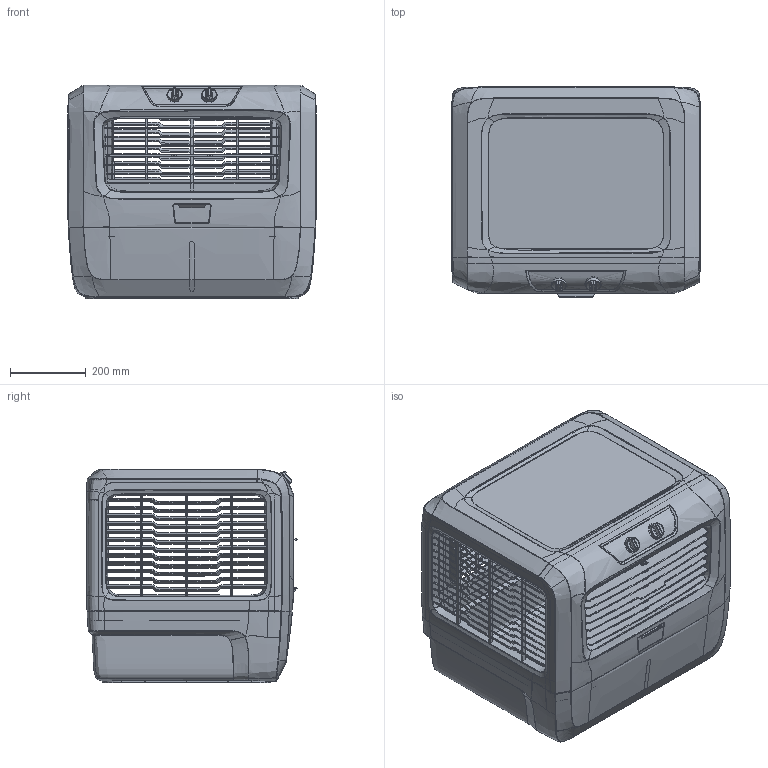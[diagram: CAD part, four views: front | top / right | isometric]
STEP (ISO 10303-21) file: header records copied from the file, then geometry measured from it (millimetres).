
FILE_DESCRIPTION(/* description */ (''),/* implementation_level */ '2;1');
FILE_NAME(/* name */ 'C:/Users/vivek/Downloads/MD2020_PART_ASSEMBLY/selected concept 1 mockup v27.step',/* time_stamp */ '2022-01-18T14:07:08+06:00',/* author */ (''),/* organization */ (''),/* preprocessor_version */ 'ST-DEVELOPER v18.1',/* originating_system */ 'Autodesk Translation Framework v10.10.0.1391',/* authorisation */ '');
FILE_SCHEMA (('AUTOMOTIVE_DESIGN { 1 0 10303 214 3 1 1 }'));
Products named in the file (2): selected concept 1 mockup; wc final
Assembly tree (1 placements, depth 2):
  selected concept 1 mockup
    wc final
Bounding box: 655 x 555.49 x 565 mm (x, y, z)
Volume: 4963698.4 mm3; surface area: 4148741.5 mm2
Topology: 20 solids, 20 shells, 1808 faces, 5559 edges, 3644 vertices
Faces by surface type: bspline 1049, plane 516, cylinder 204, torus 33, sphere 6
Full cylindrical faces by diameter (mm): 3 x37, 3.2 x14, 3.5 x12, 37.6 x3, 40 x3, 42.2 x1, 44.6 x1
Entity records: 179873 total; most frequent: CARTESIAN_POINT 138787, ORIENTED_EDGE 11122, EDGE_CURVE 5561, DIRECTION 4547, VERTEX_POINT 3646, B_SPLINE_CURVE_WITH_KNOTS 3399, EDGE_LOOP 2071, FACE_OUTER_BOUND 1808
